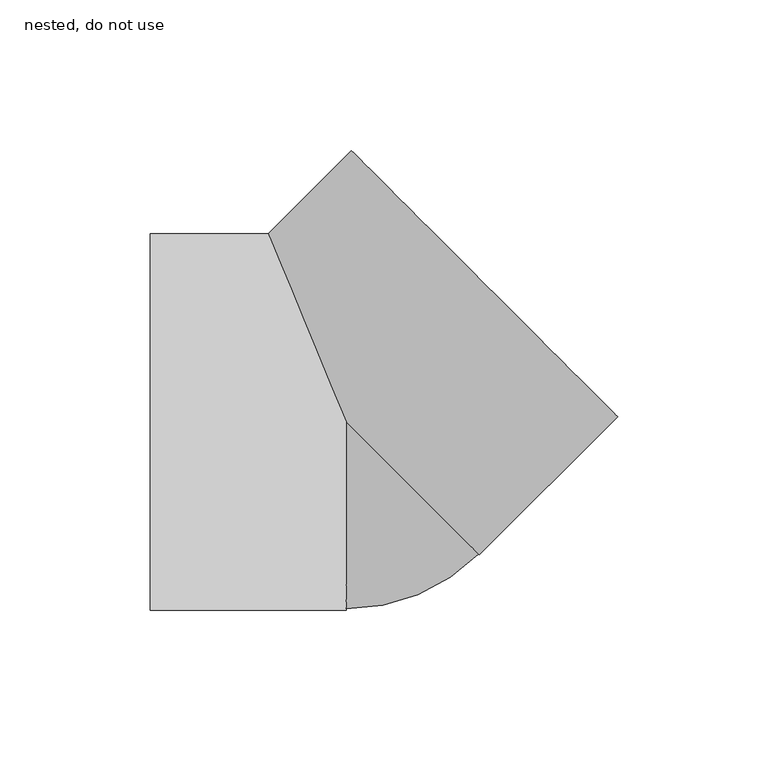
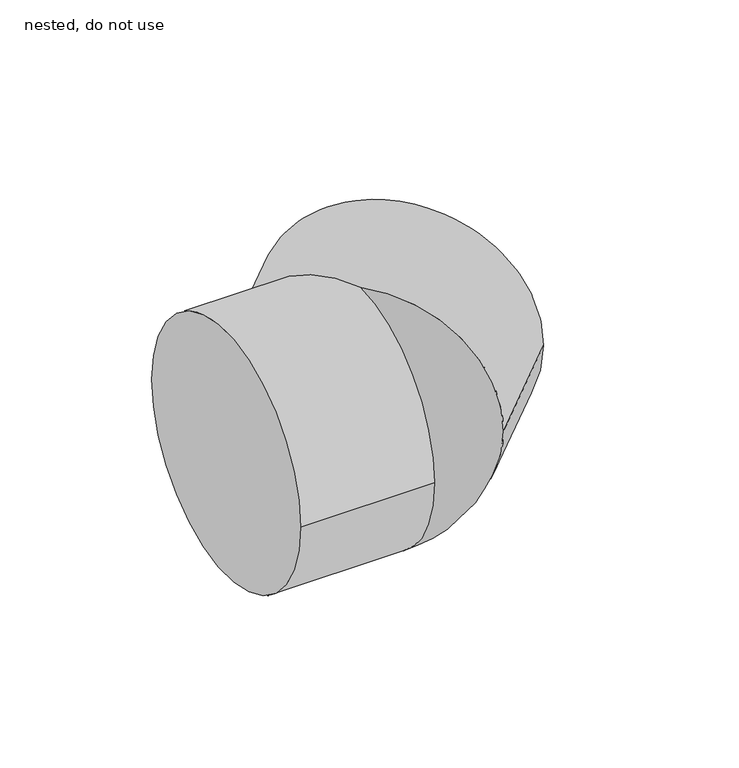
"""IFC4 building model written with IfcOpenShell, lengths in millimetres: pipe fitting geometry, ZZZ_do no use_PIF_HDPE elbow for bend assembly -SH_Akatherm : nested, do not use."""

import ifcopenshell
import ifcopenshell.guid

model = None  # the IFC model being written
_history = None  # IfcOwnerHistory: only IFC2X3 demands one
_inside = {}  # id of a spatial element -> (the spatial element, [elements in it])
_under = {}  # id of a project, library or spatial element -> (it, [spatial elements below it])
_declared = {}  # id of a project -> (the project, [libraries it declares])
_typed = {}  # id of a type object -> (the type object, [elements of that type])
_made_of = {}  # id of a material, layer set ... -> (it, [elements and type objects made of it])


def new_model(schema):
    """Start an empty IFC model of exactly this schema.

    Asked for "IFC4X3", IfcOpenShell would pick the latest addendum, in which some entities
    have other attributes; the version numbers below select the first issue.
    IFC2X3 requires an IfcOwnerHistory on every rooted entity: one is made here for all.
    """
    global model, _history
    if schema == "IFC4X3":
        model = ifcopenshell.file(schema_version=(4, 3, 0, 0))
    else:
        model = ifcopenshell.file(schema=schema)
    _inside.clear()
    _under.clear()
    _declared.clear()
    _typed.clear()
    _made_of.clear()
    _history = None
    if model.schema == "IFC2X3":
        org = make("IfcOrganization", Name="unknown")
        user = make(
            "IfcPersonAndOrganization",
            ThePerson=make("IfcPerson", FamilyName="unknown"),
            TheOrganization=org,
        )
        app = make(
            "IfcApplication",
            ApplicationDeveloper=org,
            Version="unknown",
            ApplicationFullName="unknown",
            ApplicationIdentifier="unknown",
        )
        _history = make(
            "IfcOwnerHistory",
            OwningUser=user,
            OwningApplication=app,
            ChangeAction="ADDED",
            CreationDate=0,
        )
    return model


def make(cls, **values):
    """One entity of the class cls with the attributes given. An attribute that is None is left unset."""
    return model.create_entity(
        cls, **{name: value for name, value in values.items() if value is not None}
    )


def rooted(cls, **values):
    """An entity with a GlobalId (a new one), such as an element, a storey or a relation."""
    return make(cls, GlobalId=ifcopenshell.guid.new(), OwnerHistory=_history, **values)


def si_unit(unit_type, name, prefix=None):
    """IfcSIUnit, for example si_unit("LENGTHUNIT", "METRE", prefix="MILLI")."""
    return make("IfcSIUnit", UnitType=unit_type, Prefix=prefix, Name=name)


def assignment(units):
    """IfcUnitAssignment: the units of a project."""
    return None if units is None else make("IfcUnitAssignment", Units=units)


def point(xyz):
    """IfcCartesianPoint."""
    return None if xyz is None else make("IfcCartesianPoint", Coordinates=xyz)


def direction(xyz):
    """IfcDirection."""
    return None if xyz is None else make("IfcDirection", DirectionRatios=xyz)


def frame(location, z_axis=None, x_axis=None):
    """IfcAxis2Placement3D, a coordinate frame: its origin and axes. An axis left out is left unset."""
    return make(
        "IfcAxis2Placement3D",
        Location=point(location),
        Axis=direction(z_axis),
        RefDirection=direction(x_axis),
    )


def origin():
    """The frame at (0, 0, 0) with its axes left unset."""
    return frame((0.0, 0.0, 0.0))


def place(relative_to, where):
    """IfcLocalPlacement: puts the frame where relative to a parent placement (None: the world)."""
    return make(
        "IfcLocalPlacement", PlacementRelTo=relative_to, RelativePlacement=where
    )


def context(
    kind, dimensions, precision=None, world=None, true_north=None, identifier=None
):
    """IfcGeometricRepresentationContext, for example the 3D "Model" context."""
    return make(
        "IfcGeometricRepresentationContext",
        ContextIdentifier=identifier,
        ContextType=kind,
        CoordinateSpaceDimension=dimensions,
        Precision=precision,
        WorldCoordinateSystem=world,
        TrueNorth=true_north,
    )


def project(units=None, contexts=None):
    """IfcProject with its units and contexts."""
    return rooted(
        "IfcProject",
        Name="project",
        RepresentationContexts=contexts,
        UnitsInContext=assignment(units),
    )


def spatial(cls, under=None, at=None, **own):
    """A site, building, storey or space (cls), placed at a placement, below another one or the project."""
    s = rooted(cls, ObjectPlacement=at, **own)
    if under is not None:
        _under.setdefault(under.id(), (under, []))[1].append(s)
    return s


def circle_curve(where, radius):
    """IfcCircle in the frame where."""
    return make("IfcCircle", Position=where, Radius=radius)


def ellipse_curve(where, semi_axis1, semi_axis2):
    """IfcEllipse in the frame where."""
    return make(
        "IfcEllipse", Position=where, SemiAxis1=semi_axis1, SemiAxis2=semi_axis2
    )


def trimmed(basis, trim1, trim2, sense, master):
    """IfcTrimmedCurve: the piece of a basis curve between two trims."""
    return make(
        "IfcTrimmedCurve",
        BasisCurve=basis,
        Trim1=trim1,
        Trim2=trim2,
        SenseAgreement=sense,
        MasterRepresentation=master,
    )


def shape(context_of_items, identifier, shape_type, items):
    """IfcShapeRepresentation: the items that make up one representation, for example the "Body"."""
    return make(
        "IfcShapeRepresentation",
        ContextOfItems=context_of_items,
        RepresentationIdentifier=identifier,
        RepresentationType=shape_type,
        Items=items,
    )


def source(mapping_origin, context_of_items, identifier, shape_type, items):
    """IfcRepresentationMap: a shape defined once, which mapped items show again and again."""
    return make(
        "IfcRepresentationMap",
        MappingOrigin=mapping_origin,
        MappedRepresentation=shape(context_of_items, identifier, shape_type, items),
    )


def transform(
    local_origin,
    x_axis=None,
    y_axis=None,
    z_axis=None,
    scale=None,
    scale2=None,
    scale3=None,
    uniform=True,
):
    """IfcCartesianTransformationOperator3D, or its non-uniform kind. x_axis, y_axis, z_axis: its Axis1, 2, 3."""
    if uniform:
        return make(
            "IfcCartesianTransformationOperator3D",
            Axis1=direction(x_axis),
            Axis2=direction(y_axis),
            LocalOrigin=point(local_origin),
            Scale=scale,
            Axis3=direction(z_axis),
        )
    return make(
        "IfcCartesianTransformationOperator3DnonUniform",
        Axis1=direction(x_axis),
        Axis2=direction(y_axis),
        LocalOrigin=point(local_origin),
        Scale=scale,
        Axis3=direction(z_axis),
        Scale2=scale2,
        Scale3=scale3,
    )


def mapped(mapping_source, mapping_target):
    """IfcMappedItem: shows the shape of a source again, moved by a transform."""
    return make(
        "IfcMappedItem", MappingSource=mapping_source, MappingTarget=mapping_target
    )


def made_of(thing, what):
    """Note that an element or type object is made of a material, layer set ...; save() writes the relation."""
    if what is not None:
        _made_of.setdefault(what.id(), (what, []))[1].append(thing)
    return thing


def element(
    cls,
    number,
    at=None,
    inside=None,
    cuts=None,
    type_object=None,
    material=None,
    context=None,
    identifier="Body",
    shape_type=None,
    held_by="IfcProductDefinitionShape",
    body=None,
    shapes=None,
    **own,
):
    """One element of the class cls, such as IfcWall. Its Tag is "e" and its number.

    at: its placement. inside: the storey or other place that contains it. cuts: it is an
    opening in that element (IfcRelVoidsElement). A single representation is given by context,
    identifier, shape_type and body (its items); several are given by shapes. held_by: the class
    of the entity that holds the representations. save() writes the other relations.
    """
    e = rooted(cls, Tag="e%d" % number, ObjectPlacement=at, **own)
    if body is not None:
        shapes = [shape(context, identifier, shape_type, body)]
    if shapes is not None:
        e.Representation = make(held_by, Representations=shapes)
    if inside is not None:
        _inside.setdefault(inside.id(), (inside, []))[1].append(e)
    if cuts is not None:
        rooted(
            "IfcRelVoidsElement", RelatingBuildingElement=cuts, RelatedOpeningElement=e
        )
    if type_object is not None:
        _typed.setdefault(type_object.id(), (type_object, []))[1].append(e)
    return made_of(e, material)


def aggregate(whole, parts):
    """IfcRelAggregates: a whole, such as a stair, and the parts it consists of."""
    return rooted("IfcRelAggregates", RelatingObject=whole, RelatedObjects=parts)


def save(model, path):
    """Write the relations noted so far, then the file.

    IfcRelAggregates (storeys below a building ...), IfcRelContainedInSpatialStructure (elements
    in a storey), IfcRelDefinesByType, IfcRelAssociatesMaterial and IfcRelDeclares: one each for
    every whole, place, type object, material and project.
    """
    for whole, parts in _under.values():
        aggregate(whole, parts)
    for where, things in _inside.values():
        rooted(
            "IfcRelContainedInSpatialStructure",
            RelatedElements=things,
            RelatingStructure=where,
        )
    for kind, things in _typed.values():
        rooted("IfcRelDefinesByType", RelatedObjects=things, RelatingType=kind)
    for what, things in _made_of.values():
        rooted("IfcRelAssociatesMaterial", RelatedObjects=things, RelatingMaterial=what)
    for by, libraries in _declared.values():
        rooted("IfcRelDeclares", RelatingContext=by, RelatedDefinitions=libraries)
    model.write(path)


def plane_surface(at):
    """IfcPlane: the flat surface through the origin of the frame at, square to its z axis."""
    return make("IfcPlane", Position=at)


def cylinder_surface(at, radius):
    """IfcCylindricalSurface: all points at the distance radius from the z axis of the frame at."""
    return make("IfcCylindricalSurface", Position=at, Radius=radius)


def revolved_surface(curve, axis_point, axis_direction):
    """IfcSurfaceOfRevolution: the curve turned about the line through axis_point along axis_direction."""
    return make(
        "IfcSurfaceOfRevolution",
        SweptCurve=make("IfcArbitraryOpenProfileDef", ProfileType="CURVE", Curve=curve),
        AxisPosition=make("IfcAxis1Placement", Location=point(axis_point), Axis=direction(axis_direction)),
    )


def advanced_brep(points, edges, surfaces, faces):
    """IfcAdvancedBrep: a solid bounded by faces that lie on surfaces and meet in shared edges.

    An edge is (start, end): straight between two places in points (the first is 0);
    or (start, end, curve); or (start, end, curve, False) where it runs against its curve.
    A face is (place in surfaces, loops), or (place, loops, False) where it looks against
    its surface's normal. A loop lists edges by number (the first is 1), with a minus sign
    where the edge is run from its end to its start. The first loop is the outer one.
    """
    corners = [point(p) for p in points]
    vertices = [make("IfcVertexPoint", VertexGeometry=c) for c in corners]
    made = []
    for start, end, *more in edges:
        made.append(
            make(
                "IfcEdgeCurve",
                EdgeStart=vertices[start],
                EdgeEnd=vertices[end],
                EdgeGeometry=more[0] if more else make("IfcPolyline", Points=[corners[start], corners[end]]),
                SameSense=more[1] if len(more) > 1 else True,
            )
        )
    hull = []
    for where, loops, *sense in faces:
        bounds = []
        for j, loop in enumerate(loops):
            ring = [make("IfcOrientedEdge", EdgeElement=made[abs(k) - 1], Orientation=k > 0) for k in loop]
            bounds.append(
                make(
                    "IfcFaceOuterBound" if j == 0 else "IfcFaceBound",
                    Bound=make("IfcEdgeLoop", EdgeList=ring),
                    Orientation=True,
                )
            )
        hull.append(make("IfcAdvancedFace", Bounds=bounds, FaceSurface=surfaces[where], SameSense=sense[0] if sense else True))
    return make("IfcAdvancedBrep", Outer=make("IfcClosedShell", CfsFaces=hull))


def nested_do_not_use_0367c6a2(model_context):
    return source(origin(), model_context, "Body", "AdvancedBrep", [
        advanced_brep(
        [(-65.0, -62.5, 0.0), (-65.0, 62.5, 0.0), (-25.8883476, 62.5, 0.0), (0.0, 0.0, -62.5), (0.0, -62.5, 0.0), (0.0, 0.0, 62.5), (90.1561146, 1.767767, 0.0), (1.767767, 90.1561146, 0.0), (44.1941738, -44.1941738, 0.0)],
        [
            (0, 1, circle_curve(frame((-65.0, 0.0, 0.0), z_axis=(-1.0, 0.0, 0.0), x_axis=(0.0, 1.0, 0.0)), 62.5)),
            (1, 0, circle_curve(frame((-65.0, 0.0, 0.0), z_axis=(-1.0, 0.0, 0.0), x_axis=(0.0, 1.0, 0.0)), 62.5)),
            (1, 2),
            (2, 3, ellipse_curve(frame((0.0, 0.0, 0.0), z_axis=(-0.9238795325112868, -0.38268343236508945, 0.0), x_axis=(0.3826834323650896, -0.923879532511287, 0.0)), 67.6495125, 62.5)),
            (3, 4, circle_curve(frame((0.0, 0.0, 0.0), z_axis=(-1.0, 0.0, 0.0), x_axis=(0.0, 1.0, 0.0)), 62.5)),
            (4, 0),
            (4, 5, circle_curve(frame((0.0, 0.0, 0.0), z_axis=(-1.0, 0.0, 0.0), x_axis=(0.0, 1.0, 0.0)), 62.5)),
            (5, 2, ellipse_curve(frame((0.0, 0.0, 0.0), z_axis=(-0.9238795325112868, -0.38268343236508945, 0.0), x_axis=(0.3826834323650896, -0.923879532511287, 0.0)), 67.6495125, 62.5)),
            (6, 7, circle_curve(frame((45.9619408, 45.9619408, 0.0), z_axis=(0.707106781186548, 0.707106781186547, 0.0), x_axis=(-0.707106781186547, 0.707106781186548, 0.0)), 62.5)),
            (7, 6, circle_curve(frame((45.9619408, 45.9619408, 0.0), z_axis=(0.707106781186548, 0.707106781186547, 0.0), x_axis=(-0.707106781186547, 0.707106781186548, 0.0)), 62.5)),
            (7, 2),
            (5, 8, circle_curve(frame((0.0, 0.0, 0.0), z_axis=(0.707106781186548, 0.707106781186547, 0.0), x_axis=(-0.707106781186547, 0.707106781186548, 0.0)), 62.5)),
            (8, 6),
            (8, 3, circle_curve(frame((0.0, 0.0, 0.0), z_axis=(0.707106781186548, 0.707106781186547, 0.0), x_axis=(-0.707106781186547, 0.707106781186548, 0.0)), 62.5)),
        ],
        [
            plane_surface(frame((-65.0, 62.5, 0.0), z_axis=(-1.0, 0.0, 0.0), x_axis=(0.0, 0.0, -1.0))),
            cylinder_surface(frame((-65.0, 0.0, 0.0), z_axis=(1.0, 0.0, 0.0), x_axis=(0.0, 1.0, 0.0)), 62.5),
            plane_surface(frame((45.9619408, 45.9619408, 0.0), z_axis=(0.707106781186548, 0.707106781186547, 0.0), x_axis=(0.0, 0.0, 1.0))),
            cylinder_surface(frame((0.0, 0.0, 0.0), z_axis=(-0.707106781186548, -0.707106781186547, 0.0), x_axis=(-0.707106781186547, 0.707106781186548, 0.0)), 62.5),
            revolved_surface(trimmed(ellipse_curve(frame((0.0, 0.0, 0.0), z_axis=(-1.0, 0.0, 0.0), x_axis=(0.0, 1.0, 0.0)), 62.5, 62.5), [point((0.0, 0.0, -62.5))], [point((0.0, 0.0, 62.5))], True, "CARTESIAN"), (0.0, 0.0, 142.5), (0.0, 0.0, 1.0)),
        ],
        [
            (0, [[1, 2]]),
            (1, [[-2, 3, 4, 5, 6]]),
            (1, [[-1, -6, 7, 8, -3]]),
            (2, [[9, 10]]),
            (3, [[-10, 11, -8, 12, 13]]),
            (3, [[-9, -13, 14, -4, -11]]),
            (4, [[-12, -7, -5, -14]]),
        ],
    ),
    ])


if __name__ == "__main__":
    model = new_model("IFC4")
    model_context = context("Model", 3, world=origin())
    ifc_project = project(units=[si_unit("LENGTHUNIT", "METRE", prefix="MILLI")], contexts=[model_context])
    site = spatial("IfcSite", under=ifc_project)
    building = spatial("IfcBuilding", under=site)
    placement = place(None, origin())
    nested_do_not_use_shape = nested_do_not_use_0367c6a2(model_context)
    element("IfcPipeFitting", 1, ObjectType="ZZZ_do no use_PIF_HDPE elbow for bend assembly -SH_Akatherm : nested, do not use", at=placement, inside=building, context=model_context, shape_type="MappedRepresentation", body=[
        mapped(nested_do_not_use_shape, transform((0.0, 0.0, 0.0), x_axis=(1.0, 0.0, 0.0), y_axis=(0.0, 1.0, 0.0), z_axis=(0.0, 0.0, 1.0))),
    ])
    save(model, "model.ifc")
